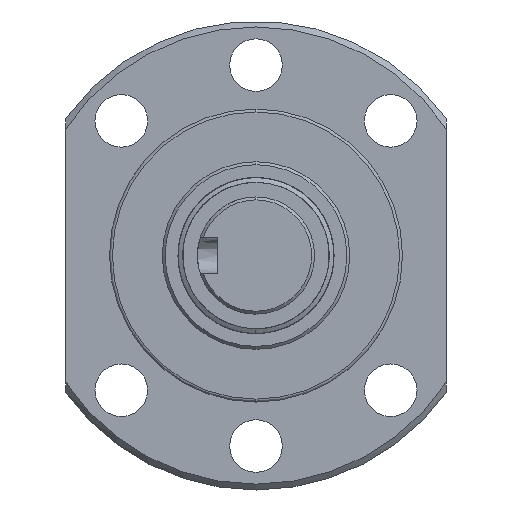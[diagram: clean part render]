
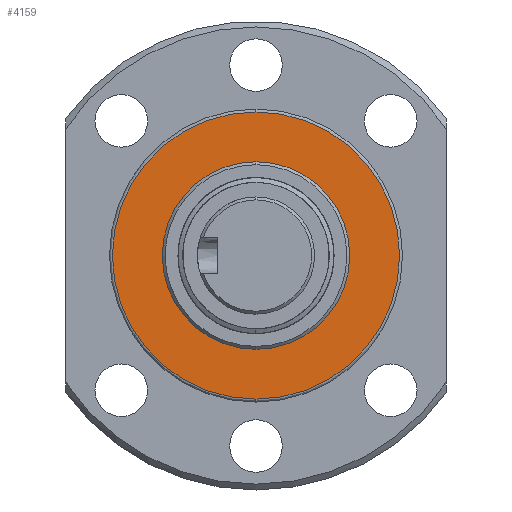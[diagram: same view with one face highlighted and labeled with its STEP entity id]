
A CAD part, left-side view. The second image highlights one B-rep face of the part: STEP entity #4159.
In plain terms, the highlighted planar face has unit normal (-1, 0, 0).
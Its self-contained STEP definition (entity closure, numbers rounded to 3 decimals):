
#3 = AXIS2_PLACEMENT_3D ( 'NONE', #5539, #1543, #3969 ) ;
#105 = CIRCLE ( 'NONE', #3590, 24.5 ) ;
#159 = CARTESIAN_POINT ( 'NONE',  ( -105., 0., -16. ) ) ;
#229 = DIRECTION ( 'NONE',  ( -1., 0., 0. ) ) ;
#231 = EDGE_CURVE ( 'NONE', #547, #285, #5908, .T. ) ;
#285 = VERTEX_POINT ( 'NONE', #1295 ) ;
#380 = EDGE_CURVE ( 'NONE', #2748, #5330, #105, .T. ) ;
#529 = FACE_OUTER_BOUND ( 'NONE', #2381, .T. ) ;
#547 = VERTEX_POINT ( 'NONE', #159 ) ;
#1000 = CIRCLE ( 'NONE', #4608, 24.5 ) ;
#1236 = EDGE_CURVE ( 'NONE', #5330, #2748, #1000, .T. ) ;
#1295 = CARTESIAN_POINT ( 'NONE',  ( -105., 0., 16. ) ) ;
#1543 = DIRECTION ( 'NONE',  ( -1., 0., 0. ) ) ;
#1555 = CARTESIAN_POINT ( 'NONE',  ( -105., 0., 0. ) ) ;
#2166 = DIRECTION ( 'NONE',  ( 0., 0., 1. ) ) ;
#2173 = DIRECTION ( 'NONE',  ( 0., 0., 1. ) ) ;
#2376 = EDGE_CURVE ( 'NONE', #285, #547, #3681, .T. ) ;
#2381 = EDGE_LOOP ( 'NONE', ( #3991, #6457 ) ) ;
#2748 = VERTEX_POINT ( 'NONE', #4373 ) ;
#2824 = ORIENTED_EDGE ( 'NONE', *, *, #231, .F. ) ;
#3531 = DIRECTION ( 'NONE',  ( 0., 0., 1. ) ) ;
#3590 = AXIS2_PLACEMENT_3D ( 'NONE', #6552, #4960, #3531 ) ;
#3615 = DIRECTION ( 'NONE',  ( -1., 0., 0. ) ) ;
#3681 = CIRCLE ( 'NONE', #5065, 16. ) ;
#3969 = DIRECTION ( 'NONE',  ( 0., 0., 1. ) ) ;
#3991 = ORIENTED_EDGE ( 'NONE', *, *, #1236, .T. ) ;
#4069 = PLANE ( 'NONE',  #3 ) ;
#4159 = ADVANCED_FACE ( 'NONE', ( #4612, #529 ), #4069, .T. ) ;
#4236 = ORIENTED_EDGE ( 'NONE', *, *, #2376, .F. ) ;
#4373 = CARTESIAN_POINT ( 'NONE',  ( -105., 0., -24.5 ) ) ;
#4608 = AXIS2_PLACEMENT_3D ( 'NONE', #1555, #3615, #2173 ) ;
#4612 = FACE_BOUND ( 'NONE', #5714, .T. ) ;
#4736 = CARTESIAN_POINT ( 'NONE',  ( -105., 0., 0. ) ) ;
#4798 = CARTESIAN_POINT ( 'NONE',  ( -105., 0., 0. ) ) ;
#4960 = DIRECTION ( 'NONE',  ( -1., 0., 0. ) ) ;
#5065 = AXIS2_PLACEMENT_3D ( 'NONE', #4798, #6415, #5826 ) ;
#5141 = CARTESIAN_POINT ( 'NONE',  ( -105., 0., 24.5 ) ) ;
#5330 = VERTEX_POINT ( 'NONE', #5141 ) ;
#5539 = CARTESIAN_POINT ( 'NONE',  ( -105., 0., 0. ) ) ;
#5607 = AXIS2_PLACEMENT_3D ( 'NONE', #4736, #229, #2166 ) ;
#5714 = EDGE_LOOP ( 'NONE', ( #4236, #2824 ) ) ;
#5826 = DIRECTION ( 'NONE',  ( 0., 0., 1. ) ) ;
#5908 = CIRCLE ( 'NONE', #5607, 16. ) ;
#6415 = DIRECTION ( 'NONE',  ( -1., 0., 0. ) ) ;
#6457 = ORIENTED_EDGE ( 'NONE', *, *, #380, .T. ) ;
#6552 = CARTESIAN_POINT ( 'NONE',  ( -105., 0., 0. ) ) ;
